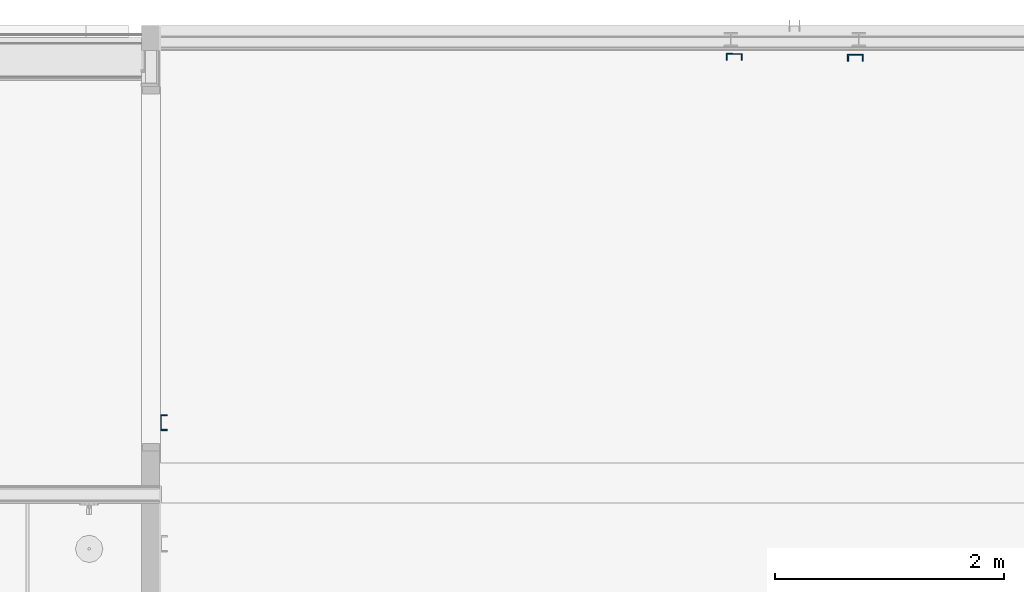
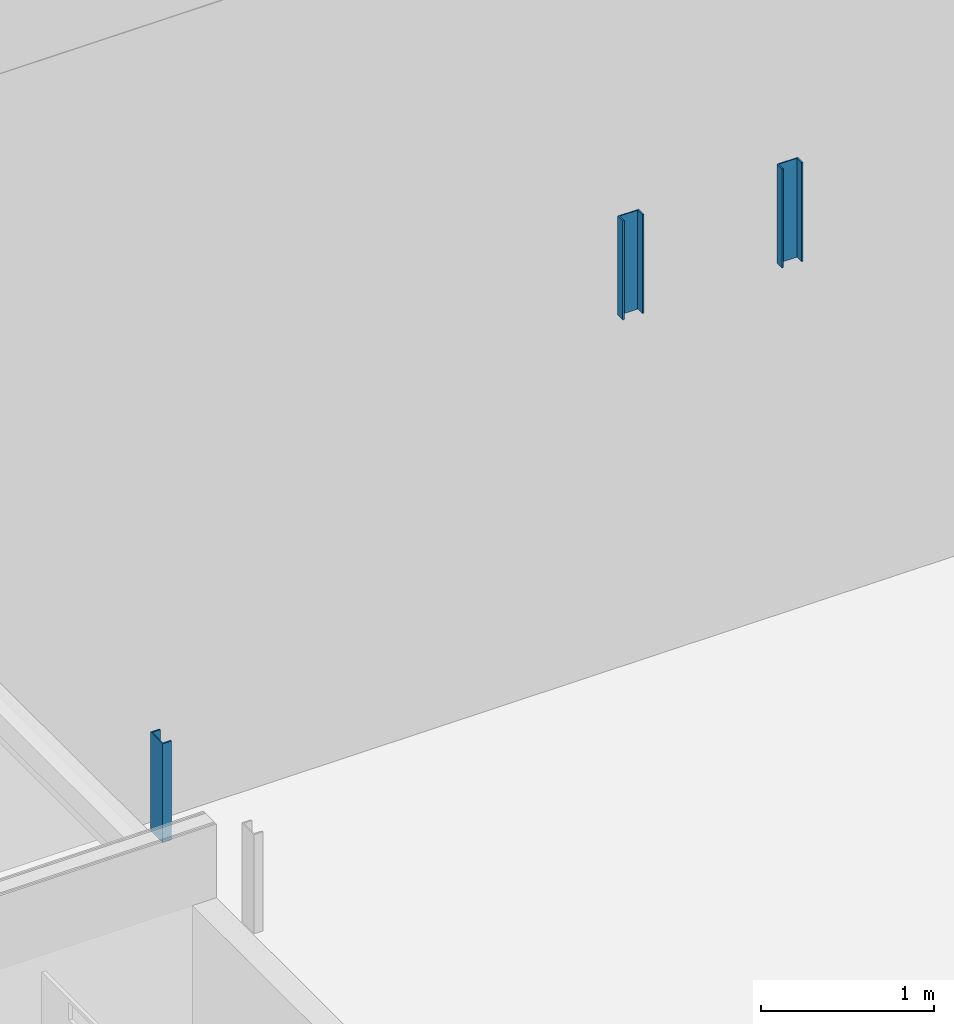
# One storey, part 5 of 35: 3 columns.
"""IFC2X3 building model written with IfcOpenShell, lengths in millimetres."""

from ifc_helpers import new_model, entity, si_unit, converted_unit, derived_unit, money_unit, direction, frame, origin_with_axes, place, context, subcontext, project, spatial, faceted_brep, material, type_object, element, save


model = new_model("IFC2X3")

# Units and contexts
model_context = context("Model", 3, precision=0.01, world=origin_with_axes(), true_north=direction((0.0, 1.0)))
body_context = subcontext(model_context, "Body", "Model", "MODEL_VIEW")
ifc_project = project(units=[si_unit("LENGTHUNIT", "METRE", prefix="MILLI"), si_unit("AREAUNIT", "SQUARE_METRE"), si_unit("VOLUMEUNIT", "CUBIC_METRE"), converted_unit("PLANEANGLEUNIT", "DEGREE", entity("IfcPlaneAngleMeasure", 0.0174532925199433), si_unit("PLANEANGLEUNIT", "RADIAN"), dimensions=[0, 0, 0, 0, 0, 0, 0]), money_unit("EUR"), converted_unit("TIMEUNIT", "Year", entity("IfcTimeMeasure", 31557600.0), si_unit("TIMEUNIT", "SECOND"), dimensions=[0, 0, 1, 0, 0, 0, 0]), si_unit("MASSUNIT", "GRAM", prefix="KILO"), si_unit("THERMODYNAMICTEMPERATUREUNIT", "DEGREE_CELSIUS"), si_unit("LUMINOUSINTENSITYUNIT", "LUMEN"), si_unit("ENERGYUNIT", "JOULE", prefix="MEGA"), derived_unit("THERMALCONDUCTANCEUNIT", [(si_unit("POWERUNIT", "WATT"), 1), (si_unit("LENGTHUNIT", "METRE"), -1), (si_unit("THERMODYNAMICTEMPERATUREUNIT", "KELVIN"), -1)]), derived_unit("SPECIFICHEATCAPACITYUNIT", [(si_unit("ENERGYUNIT", "JOULE"), 1), (si_unit("MASSUNIT", "GRAM", prefix="KILO"), -1), (si_unit("THERMODYNAMICTEMPERATUREUNIT", "KELVIN"), -1)]), derived_unit("MASSDENSITYUNIT", [(si_unit("MASSUNIT", "GRAM", prefix="KILO"), 1), (si_unit("VOLUMEUNIT", "CUBIC_METRE"), -1)])], contexts=[model_context])

# Site, building, storey
site_placement = place(None, origin_with_axes())
site = spatial("IfcSite", under=ifc_project, at=site_placement, Name="<site naam>", CompositionType="ELEMENT")
building_placement = place(site_placement, origin_with_axes())
building = spatial("IfcBuilding", under=site, at=building_placement, Name="<Naam gebouw>", CompositionType="ELEMENT")
storey_placement = place(building_placement, frame((0.0, 0.0, 6345.0), z_axis=(0.0, 0.0, 1.0), x_axis=(1.0, 0.0, 0.0)))
storey = spatial("IfcBuildingStorey", under=building, at=storey_placement, Name="02 2e tussenverdieping", CompositionType="ELEMENT", Elevation=6345.0)

# Columns
ifc_material = material(Name="staal")
column_type = type_object("IfcColumnType", Name="Profiel UPN algemeen 60 x 140", PredefinedType="COLUMN")
column_1_placement = place(storey_placement, frame((58324.99985746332, 16600.00066292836, 2517.500000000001), z_axis=(0.0, 0.0, 1.0), x_axis=(1.0, 0.0, 0.0)))
element("IfcColumn", 1, at=column_1_placement, inside=storey, type_object=column_type, material=ifc_material, Name="28_Kolom_Profiel", ObjectType="COLUMN", context=body_context, shape_type="Brep", body=[
    faceted_brep([(60.00024564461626, 0.0, 699.9999999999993), (60.00024564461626, 0.0, 0.0), (0.0, 0.0, 0.0), (0.0, 0.0, 699.9999999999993), (60.00019651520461, -10.00000000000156, 699.9999999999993), (60.00019651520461, -10.00000000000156, 0.0), (6.999999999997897, -10.00000000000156, 0.0), (6.999999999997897, -130.0006629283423, 0.0), (60.00019651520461, -130.0006629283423, 0.0), (60.00024564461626, -140.000662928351, 0.0), (0.0, -140.000662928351, 0.0), (0.0, -140.000662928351, 699.9999999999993), (60.00024564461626, -140.000662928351, 699.9999999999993), (60.00019651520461, -130.0006629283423, 699.9999999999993), (6.999999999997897, -130.0006629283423, 699.9999999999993), (6.999999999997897, -10.00000000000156, 699.9999999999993)], [[[0, 1, 2, 3]], [[4, 5, 1, 0]], [[2, 1, 5, 6, 7, 8, 9, 10]], [[3, 2, 10, 11]], [[4, 0, 3, 11, 12, 13, 14, 15]], [[15, 6, 5, 4]], [[14, 7, 6, 15]], [[13, 8, 7, 14]], [[12, 9, 8, 13]], [[11, 10, 9, 12]]]),
])
column_2_placement = place(storey_placement, frame((63271.28108942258, 19757.42482489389, 2517.999788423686), z_axis=(0.0, 0.0, 1.0), x_axis=(0.006604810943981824, 0.9999781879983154, 0.0)))
element("IfcColumn", 2, at=column_2_placement, inside=storey, type_object=column_type, material=ifc_material, Name="28_Kolom_Profiel", ObjectType="COLUMN", context=body_context, shape_type="Brep", body=[
    faceted_brep([(-60.00019651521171, -9.99999999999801, 699.9999999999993), (-60.00019651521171, -9.99999999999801, 0.0), (-7.00000000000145, -9.99999999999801, 0.0), (-7.00000000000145, -9.99999999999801, 699.9999999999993), (-60.00024564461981, 0.0, 699.9999999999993), (-60.00024564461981, 0.0, 0.0), (0.0, 0.0, 0.0), (0.0, -140.0006629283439, 0.0), (-60.00024564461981, -140.000662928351, 0.0), (-60.00019651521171, -130.0006629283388, 0.0), (-7.00000000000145, -130.0006629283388, 0.0), (-7.00000000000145, -130.0006629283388, 699.9999999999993), (-60.00019651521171, -130.0006629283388, 699.9999999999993), (-60.00024564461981, -140.000662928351, 699.9999999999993), (0.0, -140.0006629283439, 699.9999999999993), (0.0, 0.0, 699.9999999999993)], [[[0, 1, 2, 3]], [[4, 5, 1, 0]], [[2, 1, 5, 6, 7, 8, 9, 10]], [[3, 2, 10, 11]], [[4, 0, 3, 11, 12, 13, 14, 15]], [[15, 6, 5, 4]], [[14, 7, 6, 15]], [[13, 8, 7, 14]], [[12, 9, 8, 13]], [[11, 10, 9, 12]]]),
])
column_3_placement = place(storey_placement, frame((64471.25491502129, 19749.4990517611, 2517.999788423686), z_axis=(0.0, 0.0, 1.0), x_axis=(-0.006604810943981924, -0.9999781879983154, 0.0)))
element("IfcColumn", 3, at=column_3_placement, inside=storey, type_object=column_type, material=ifc_material, Name="28_Kolom_Profiel", ObjectType="COLUMN", context=body_context, shape_type="Brep", body=[
    faceted_brep([(60.00024564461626, 0.0, 699.9999999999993), (60.00024564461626, 0.0, 0.0), (0.0, 0.0, 0.0), (0.0, 0.0, 699.9999999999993), (60.00019651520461, -10.00000000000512, 699.9999999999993), (60.00019651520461, -10.00000000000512, 0.0), (6.999999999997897, -10.00000000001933, 0.0), (7.00000000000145, -130.000662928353, 0.0), (60.00019651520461, -130.000662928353, 0.0), (60.0002456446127, -140.0006629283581, 0.0), (0.0, -140.0006629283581, 0.0), (0.0, -140.0006629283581, 699.9999999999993), (60.0002456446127, -140.0006629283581, 699.9999999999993), (60.00019651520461, -130.000662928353, 699.9999999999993), (7.00000000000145, -130.000662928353, 699.9999999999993), (6.999999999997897, -10.00000000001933, 699.9999999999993)], [[[0, 1, 2, 3]], [[4, 5, 1, 0]], [[2, 1, 5, 6, 7, 8, 9, 10]], [[3, 2, 10, 11]], [[4, 0, 3, 11, 12, 13, 14, 15]], [[15, 6, 5, 4]], [[14, 7, 6, 15]], [[13, 8, 7, 14]], [[12, 9, 8, 13]], [[11, 10, 9, 12]]]),
])

save(model, "model.ifc")
